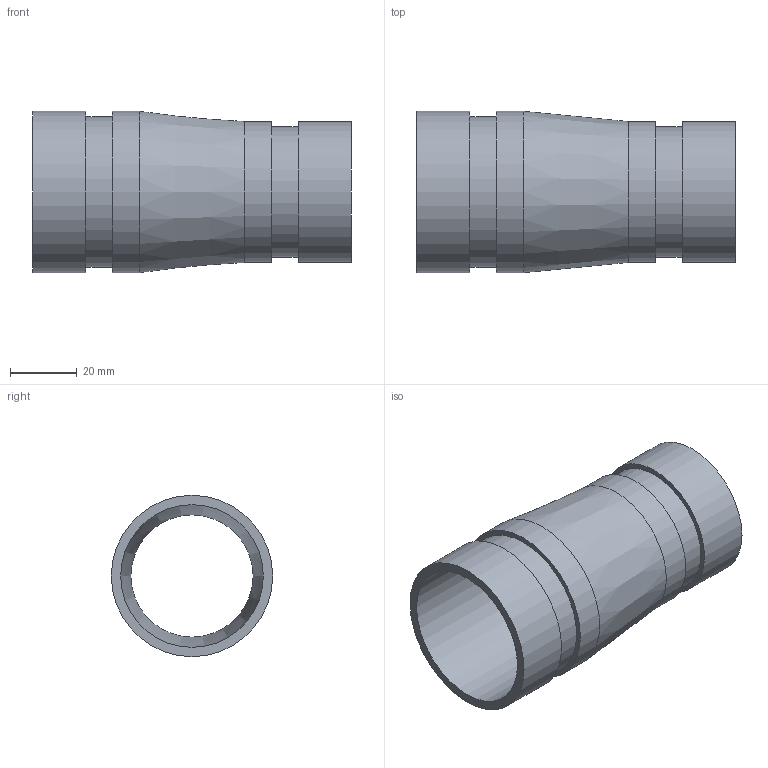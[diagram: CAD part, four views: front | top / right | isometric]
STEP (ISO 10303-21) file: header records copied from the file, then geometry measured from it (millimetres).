
FILE_DESCRIPTION(/* description */ ('VIC REDUCER CONCENTRIC No 450-SS','CAx-IF Rec.Pracs.---Representation and Presentation of Product Manufacturing Information (PMI)---4.0---2014-10-13'),/* implementation_level */ '2;1');
FILE_NAME(/* name */ 'C:\Users\kkamble\AppData\Roaming\Autodesk\ApplicationPlugins\Back Up\Victaulic_SS-OGS_Reducer Concentric_Sched 10S_No 450 SS (OGS)\Victaulic_SS-OGS_Reducer Concentric_Sched 10S_No 450 SS (OGS)_01.5x01.25 (40x32).stp',/* time_stamp */ '2020-09-08T12:31:52+05:00',/* author */ ('CORINNE GRAY'),/* organization */ ('Victaulic'),/* preprocessor_version */ 'ST-DEVELOPER v17.2',/* originating_system */ 'Autodesk Inventor 2019',/* authorisation */ '');
FILE_SCHEMA (('AP242_MANAGED_MODEL_BASED_3D_ENGINEERING_MIM_LF { 1 0 10303 442 1 1 4 }'));
Length unit declared in the file: inch
Products named in the file (1): 450 SS-01.5x01.25
Bounding box: 95.25 x 48.26 x 48.26 mm (x, y, z)
Volume: 32004.9 mm3; surface area: 26881.9 mm2
Topology: 1 solids, 1 shells, 16 faces, 42 edges, 32 vertices
Faces by surface type: cylinder 8, plane 6, cone 2
Full cylindrical faces by diameter (mm): 36.576 x1, 38.989 x1, 42.164 x2, 42.672 x1, 45.085 x1, 48.26 x2
Entity records: 686 total; most frequent: DIRECTION 134, CARTESIAN_POINT 108, ORIENTED_EDGE 84, AXIS2_PLACEMENT_3D 62, EDGE_CURVE 42, CIRCLE 32, VERTEX_POINT 32, EDGE_LOOP 22
